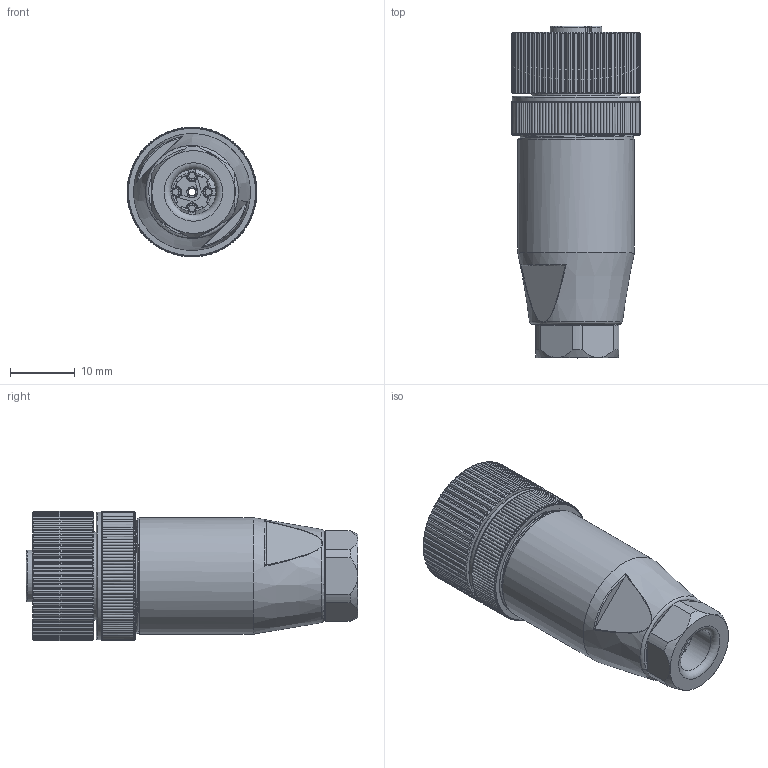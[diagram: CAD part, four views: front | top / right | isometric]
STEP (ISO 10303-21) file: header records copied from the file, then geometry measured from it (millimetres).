
FILE_DESCRIPTION(/* description */ (''),/* implementation_level */ '2;1');
FILE_NAME(/* name */ 'M12D-4FS-PG7.stp',/* time_stamp */ '2024-08-14T13:52:17+08:00',/* author */ (''),/* organization */ (''),/* preprocessor_version */ 'ST-DEVELOPER v16.7',/* originating_system */ 'SIEMENS PLM Software NX 12.0',/* authorisation */ '');
FILE_SCHEMA (('AP203_CONFIGURATION_CONTROLLED_3D_DESIGN_OF_MECHANICAL_PARTS_AND_ASSEMBLIES_MIM_LF { 1 0 10303 403 2 1 2}'));
Products named in the file (1): lyj280CC4F66we6
Bounding box: 20 x 51.18 x 20 mm (x, y, z)
Volume: 8311.8 mm3; surface area: 10201 mm2
Topology: 1 solids, 9 shells, 1256 faces, 3087 edges, 1888 vertices
Faces by surface type: cone 406, cylinder 386, plane 380, bspline 34, torus 25, extrusion 25
Full cylindrical faces by diameter (mm): 1 x12, 1.2 x5, 1.3 x8, 1.4 x4, 1.6 x17, 2 x4, 6.2 x1, 6.8 x1, 7 x1, 8 x1, 9.2 x1, 10.2 x1, 10.7 x1, 11.1 x7, 13.6 x1, 13.8 x1, 14.3 x1, 14.4 x1, 14.7 x1, 15.8 x1, 16.7 x1, 18 x1, 19.6 x1
Entity records: 55793 total; most frequent: CARTESIAN_POINT 27784, ORIENTED_EDGE 5850, DIRECTION 5652, EDGE_CURVE 2925, AXIS2_PLACEMENT_3D 2299, VERTEX_POINT 1827, EDGE_LOOP 1410, ADVANCED_FACE 1247
